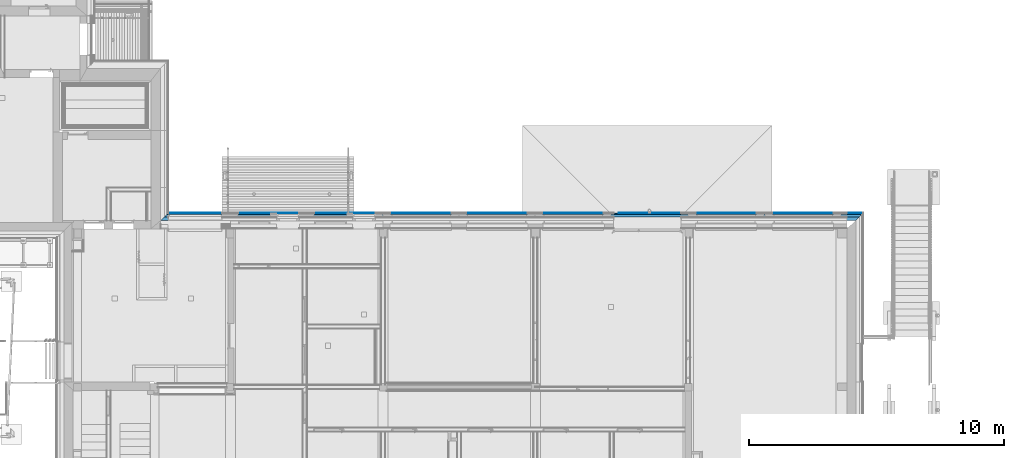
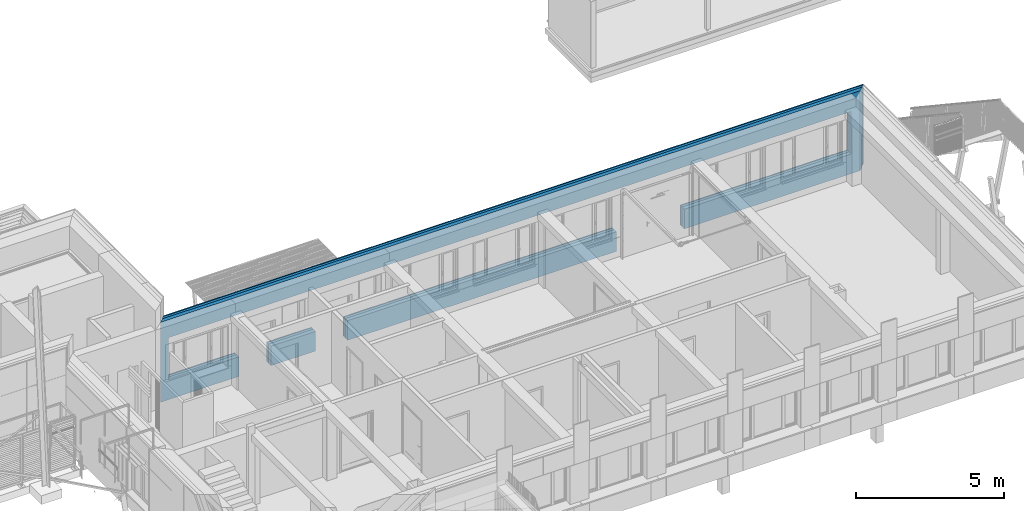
# One storey, part 47 of 418: 4 building element parts, 51 openings, 1 element without a shape of its own.
"""IFC2X3 building model written with IfcOpenShell, lengths in millimetres."""

import ifcopenshell
import ifcopenshell.guid

model = None  # the IFC model being written
_history = None  # IfcOwnerHistory: only IFC2X3 demands one
_inside = {}  # id of a spatial element -> (the spatial element, [elements in it])
_under = {}  # id of a project, library or spatial element -> (it, [spatial elements below it])
_declared = {}  # id of a project -> (the project, [libraries it declares])
_typed = {}  # id of a type object -> (the type object, [elements of that type])
_made_of = {}  # id of a material, layer set ... -> (it, [elements and type objects made of it])


def new_model(schema):
    """Start an empty IFC model of exactly this schema.

    Asked for "IFC4X3", IfcOpenShell would pick the latest addendum, in which some entities
    have other attributes; the version numbers below select the first issue.
    IFC2X3 requires an IfcOwnerHistory on every rooted entity: one is made here for all.
    """
    global model, _history
    if schema == "IFC4X3":
        model = ifcopenshell.file(schema_version=(4, 3, 0, 0))
    else:
        model = ifcopenshell.file(schema=schema)
    _inside.clear()
    _under.clear()
    _declared.clear()
    _typed.clear()
    _made_of.clear()
    _history = None
    if model.schema == "IFC2X3":
        org = make("IfcOrganization", Name="unknown")
        user = make(
            "IfcPersonAndOrganization",
            ThePerson=make("IfcPerson", FamilyName="unknown"),
            TheOrganization=org,
        )
        app = make(
            "IfcApplication",
            ApplicationDeveloper=org,
            Version="unknown",
            ApplicationFullName="unknown",
            ApplicationIdentifier="unknown",
        )
        _history = make(
            "IfcOwnerHistory",
            OwningUser=user,
            OwningApplication=app,
            ChangeAction="ADDED",
            CreationDate=0,
        )
    return model


def make(cls, **values):
    """One entity of the class cls with the attributes given. An attribute that is None is left unset."""
    return model.create_entity(
        cls, **{name: value for name, value in values.items() if value is not None}
    )


def entity(cls, *values):
    """Any entity or typed value of the class cls, its attributes in the order of the schema. None: left unset."""
    e = model.create_entity(cls)
    for i, value in enumerate(values):
        if value is not None:
            e[i] = value
    return e


def rooted(cls, **values):
    """An entity with a GlobalId (a new one), such as an element, a storey or a relation."""
    return make(cls, GlobalId=ifcopenshell.guid.new(), OwnerHistory=_history, **values)


def si_unit(unit_type, name, prefix=None):
    """IfcSIUnit, for example si_unit("LENGTHUNIT", "METRE", prefix="MILLI")."""
    return make("IfcSIUnit", UnitType=unit_type, Prefix=prefix, Name=name)


def converted_unit(unit_type, name, factor, base, dimensions=None, offset=None):
    """IfcConversionBasedUnit, such as the inch: factor (a typed value) times the base unit."""
    return make(
        "IfcConversionBasedUnit"
        if offset is None
        else "IfcConversionBasedUnitWithOffset",
        ConversionOffset=offset,
        Dimensions=None
        if dimensions is None
        else entity("IfcDimensionalExponents", *dimensions),
        UnitType=unit_type,
        Name=name,
        ConversionFactor=make(
            "IfcMeasureWithUnit", ValueComponent=factor, UnitComponent=base
        ),
    )


def derived_unit(unit_type, elements):
    """IfcDerivedUnit: a product of units, each with its exponent."""
    return make(
        "IfcDerivedUnit",
        Elements=[
            make("IfcDerivedUnitElement", Unit=unit, Exponent=power)
            for unit, power in elements
        ],
        UnitType=unit_type,
    )


def money_unit(currency):
    """IfcMonetaryUnit."""
    return make("IfcMonetaryUnit", Currency=currency)


def assignment(units):
    """IfcUnitAssignment: the units of a project."""
    return None if units is None else make("IfcUnitAssignment", Units=units)


def point(xyz):
    """IfcCartesianPoint."""
    return None if xyz is None else make("IfcCartesianPoint", Coordinates=xyz)


def direction(xyz):
    """IfcDirection."""
    return None if xyz is None else make("IfcDirection", DirectionRatios=xyz)


def frame(location, z_axis=None, x_axis=None):
    """IfcAxis2Placement3D, a coordinate frame: its origin and axes. An axis left out is left unset."""
    return make(
        "IfcAxis2Placement3D",
        Location=point(location),
        Axis=direction(z_axis),
        RefDirection=direction(x_axis),
    )


def frame_2d(location, x_axis=None):
    """IfcAxis2Placement2D, a coordinate frame in the plane: its origin and x axis."""
    return make(
        "IfcAxis2Placement2D", Location=point(location), RefDirection=direction(x_axis)
    )


def origin_with_axes():
    """The frame at (0, 0, 0) with the z axis (0, 0, 1) and the x axis (1, 0, 0) written out."""
    return frame((0.0, 0.0, 0.0), z_axis=(0.0, 0.0, 1.0), x_axis=(1.0, 0.0, 0.0))


def origin_2d_with_axis():
    """The frame at (0, 0) in the plane with the x axis (1, 0) written out."""
    return frame_2d((0.0, 0.0), x_axis=(1.0, 0.0))


def place(relative_to, where):
    """IfcLocalPlacement: puts the frame where relative to a parent placement (None: the world)."""
    return make(
        "IfcLocalPlacement", PlacementRelTo=relative_to, RelativePlacement=where
    )


def context(
    kind, dimensions, precision=None, world=None, true_north=None, identifier=None
):
    """IfcGeometricRepresentationContext, for example the 3D "Model" context."""
    return make(
        "IfcGeometricRepresentationContext",
        ContextIdentifier=identifier,
        ContextType=kind,
        CoordinateSpaceDimension=dimensions,
        Precision=precision,
        WorldCoordinateSystem=world,
        TrueNorth=true_north,
    )


def subcontext(parent, identifier, kind, view, scale=None):
    """IfcGeometricRepresentationSubContext, for example "Body" below "Model"."""
    return make(
        "IfcGeometricRepresentationSubContext",
        ContextIdentifier=identifier,
        ContextType=kind,
        ParentContext=parent,
        TargetScale=scale,
        TargetView=view,
    )


def project(units=None, contexts=None):
    """IfcProject with its units and contexts."""
    return rooted(
        "IfcProject",
        Name="project",
        RepresentationContexts=contexts,
        UnitsInContext=assignment(units),
    )


def spatial(cls, under=None, at=None, **own):
    """A site, building, storey or space (cls), placed at a placement, below another one or the project."""
    s = rooted(cls, ObjectPlacement=at, **own)
    if under is not None:
        _under.setdefault(under.id(), (under, []))[1].append(s)
    return s


def polyline(points):
    """IfcPolyline through the points."""
    return make("IfcPolyline", Points=[point(p) for p in points])


def profile(cls, at=None, kind="AREA", **sizes):
    """A parametric profile (cls). Its sizes go by their IFC names, for example OverallWidth=200.0."""
    return make(cls, ProfileType=kind, Position=at, **sizes)


def rectangle(**sizes):
    """IfcRectangleProfileDef."""
    return profile("IfcRectangleProfileDef", **sizes)


def outline(outer, holes=None, kind="AREA"):
    """IfcArbitraryClosedProfileDef: a profile drawn as a closed curve; with holes, ...WithVoids."""
    if holes is None:
        return make("IfcArbitraryClosedProfileDef", ProfileType=kind, OuterCurve=outer)
    return make(
        "IfcArbitraryProfileDefWithVoids",
        ProfileType=kind,
        OuterCurve=outer,
        InnerCurves=holes,
    )


def extrude(swept, where, along, depth):
    """IfcExtrudedAreaSolid: the profile swept, set in the frame where, extruded along a direction by depth."""
    return make(
        "IfcExtrudedAreaSolid",
        SweptArea=swept,
        Position=where,
        ExtrudedDirection=direction(along),
        Depth=depth,
    )


def shape(context_of_items, identifier, shape_type, items):
    """IfcShapeRepresentation: the items that make up one representation, for example the "Body"."""
    return make(
        "IfcShapeRepresentation",
        ContextOfItems=context_of_items,
        RepresentationIdentifier=identifier,
        RepresentationType=shape_type,
        Items=items,
    )


def material(Name=None, Category=None):
    """IfcMaterial."""
    return make("IfcMaterial", Name=Name, Category=Category)


def made_of(thing, what):
    """Note that an element or type object is made of a material, layer set ...; save() writes the relation."""
    if what is not None:
        _made_of.setdefault(what.id(), (what, []))[1].append(thing)
    return thing


def type_object(cls, material=None, **own):
    """A type object (cls), such as IfcWallType, which elements share."""
    return made_of(rooted(cls, **own), material)


def element(
    cls,
    number,
    at=None,
    inside=None,
    cuts=None,
    type_object=None,
    material=None,
    context=None,
    identifier="Body",
    shape_type=None,
    held_by="IfcProductDefinitionShape",
    body=None,
    shapes=None,
    **own,
):
    """One element of the class cls, such as IfcWall. Its Tag is "e" and its number.

    at: its placement. inside: the storey or other place that contains it. cuts: it is an
    opening in that element (IfcRelVoidsElement). A single representation is given by context,
    identifier, shape_type and body (its items); several are given by shapes. held_by: the class
    of the entity that holds the representations. save() writes the other relations.
    """
    e = rooted(cls, Tag="e%d" % number, ObjectPlacement=at, **own)
    if body is not None:
        shapes = [shape(context, identifier, shape_type, body)]
    if shapes is not None:
        e.Representation = make(held_by, Representations=shapes)
    if inside is not None:
        _inside.setdefault(inside.id(), (inside, []))[1].append(e)
    if cuts is not None:
        rooted(
            "IfcRelVoidsElement", RelatingBuildingElement=cuts, RelatedOpeningElement=e
        )
    if type_object is not None:
        _typed.setdefault(type_object.id(), (type_object, []))[1].append(e)
    return made_of(e, material)


def aggregate(whole, parts):
    """IfcRelAggregates: a whole, such as a stair, and the parts it consists of."""
    return rooted("IfcRelAggregates", RelatingObject=whole, RelatedObjects=parts)


def save(model, path):
    """Write the relations noted so far, then the file.

    IfcRelAggregates (storeys below a building ...), IfcRelContainedInSpatialStructure (elements
    in a storey), IfcRelDefinesByType, IfcRelAssociatesMaterial and IfcRelDeclares: one each for
    every whole, place, type object, material and project.
    """
    for whole, parts in _under.values():
        aggregate(whole, parts)
    for where, things in _inside.values():
        rooted(
            "IfcRelContainedInSpatialStructure",
            RelatedElements=things,
            RelatingStructure=where,
        )
    for kind, things in _typed.values():
        rooted("IfcRelDefinesByType", RelatedObjects=things, RelatingType=kind)
    for what, things in _made_of.values():
        rooted("IfcRelAssociatesMaterial", RelatedObjects=things, RelatingMaterial=what)
    for by, libraries in _declared.values():
        rooted("IfcRelDeclares", RelatingContext=by, RelatedDefinitions=libraries)
    model.write(path)


model = new_model("IFC2X3")

# Units and contexts
model_context = context("Model", 3, precision=0.01, world=origin_with_axes(), true_north=direction((0.0, 1.0)))
body_context = subcontext(model_context, "Body", "Model", "MODEL_VIEW")
ifc_project = project(units=[si_unit("LENGTHUNIT", "METRE", prefix="MILLI"), si_unit("AREAUNIT", "SQUARE_METRE"), si_unit("VOLUMEUNIT", "CUBIC_METRE"), converted_unit("PLANEANGLEUNIT", "DEGREE", entity("IfcPlaneAngleMeasure", 0.0174532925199), si_unit("PLANEANGLEUNIT", "RADIAN"), dimensions=[0, 0, 0, 0, 0, 0, 0]), si_unit("SOLIDANGLEUNIT", "STERADIAN"), money_unit("EUR"), converted_unit("TIMEUNIT", "Year", entity("IfcTimeMeasure", 31556926.0), si_unit("TIMEUNIT", "SECOND"), dimensions=[0, 0, 1, 0, 0, 0, 0]), si_unit("MASSUNIT", "GRAM", prefix="KILO"), si_unit("THERMODYNAMICTEMPERATUREUNIT", "DEGREE_CELSIUS"), si_unit("LUMINOUSINTENSITYUNIT", "LUMEN"), si_unit("ENERGYUNIT", "JOULE", prefix="MEGA"), derived_unit("THERMALCONDUCTANCEUNIT", [(si_unit("POWERUNIT", "WATT"), 1), (si_unit("LENGTHUNIT", "METRE"), -1), (si_unit("THERMODYNAMICTEMPERATUREUNIT", "KELVIN"), -1)]), derived_unit("SPECIFICHEATCAPACITYUNIT", [(si_unit("ENERGYUNIT", "JOULE"), 1), (si_unit("MASSUNIT", "GRAM", prefix="KILO"), -1), (si_unit("THERMODYNAMICTEMPERATUREUNIT", "KELVIN"), -1)]), derived_unit("MASSDENSITYUNIT", [(si_unit("MASSUNIT", "GRAM", prefix="KILO"), 1), (si_unit("VOLUMEUNIT", "CUBIC_METRE"), -1)])], contexts=[model_context])

# Site, building, storey
site_placement = place(None, origin_with_axes())
site = spatial("IfcSite", under=ifc_project, at=site_placement, Name="Paldiski mnt 245/1, Tallinn, Harjumaa", CompositionType="COMPLEX")
building_placement = place(site_placement, origin_with_axes())
building = spatial("IfcBuilding", under=site, at=building_placement, Name="RKAS Hoone üldnimetus (kasutust iseloomustav) -> IFC Project Manager -> SOLIBRI", CompositionType="ELEMENT")
storey_placement = place(building_placement, origin_with_axes())
storey = spatial("IfcBuildingStorey", under=building, at=storey_placement, Name="Esimene korrus", CompositionType="ELEMENT", Elevation=0.0)

# Wall, openings, building element parts
wall_type = type_object("IfcWallType", Name="VS-02_uued_kihid 300", PredefinedType="NOTDEFINED")
wall_placement = place(storey_placement, frame((-16879.9999755, 210.0, 0.0), z_axis=(0.0, 0.0, 1.0), x_axis=(-1.0, 0.0, 0.0)))
wall = element("IfcWall", 1, at=wall_placement, inside=storey, type_object=wall_type, Name="VS-02")
opening_1_placement = place(wall_placement, frame((346.000024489, 0.0, 0.0), z_axis=(0.0, 0.0, 1.0), x_axis=(1.0, 0.0, 0.0)))
element("IfcOpeningElement", 2, at=opening_1_placement, cuts=wall, Name="Cembrit fassaadiplaadi vuuk", context=body_context, shape_type="SweptSolid", body=[
    extrude(outline(polyline([(-3.99999999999, 0.0), (4.00000000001, 0.0), (4.00000000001, 3300.0), (-3.99999999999, 3300.0), (-3.99999999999, 0.0)])), frame((0.0, -292.0, 0.0), z_axis=(0.0, 1.0, 0.0), x_axis=(-1.0, 0.0, 0.0)), (0.0, 0.0, -1.0), 308.0),
])
opening_2_placement = place(wall_placement, frame((608.000024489, 0.0, 0.0), z_axis=(0.0, 0.0, 1.0), x_axis=(1.0, 0.0, 0.0)))
element("IfcOpeningElement", 3, at=opening_2_placement, cuts=wall, Name="Cembrit fassaadiplaadi vuuk", context=body_context, shape_type="SweptSolid", body=[
    extrude(outline(polyline([(-258.0, 0.0), (258.0, 0.0), (258.0, 3300.0), (-258.0, 3300.0), (-258.0, 0.0)])), frame((0.0, -292.0, 0.0), z_axis=(0.0, 1.0, 0.0), x_axis=(-1.0, 0.0, 0.0)), (0.0, 0.0, -1.0), 308.0),
])
opening_3_placement = place(wall_placement, frame((870.000024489, 0.0, 0.0), z_axis=(0.0, 0.0, 1.0), x_axis=(1.0, 0.0, 0.0)))
element("IfcOpeningElement", 4, at=opening_3_placement, cuts=wall, Name="Cembrit fassaadiplaadi vuuk", context=body_context, shape_type="SweptSolid", body=[
    extrude(outline(polyline([(-3.99999999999, 0.0), (4.00000000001, 0.0), (4.00000000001, 3300.70711564), (-3.99999999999, 3300.70711564), (-3.99999999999, 0.0)])), frame((0.0, -292.0, 0.0), z_axis=(0.0, 1.0, 0.0), x_axis=(-1.0, 0.0, 0.0)), (0.0, 0.0, -1.0), 308.0),
])
opening_4_placement = place(wall_placement, frame((2070.00002449, 0.0, 0.0), z_axis=(0.0, 0.0, 1.0), x_axis=(1.0, 0.0, 0.0)))
element("IfcOpeningElement", 5, at=opening_4_placement, cuts=wall, Name="Cembrit fassaadiplaadi vuuk", context=body_context, shape_type="SweptSolid", body=[
    extrude(outline(polyline([(-3.99999999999, 0.0), (4.00000000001, 0.0), (4.00000000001, 3300.70711564), (-3.99999999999, 3300.70711564), (-3.99999999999, 0.0)])), frame((0.0, -292.0, 0.0), z_axis=(0.0, 1.0, 0.0), x_axis=(-1.0, 0.0, 0.0)), (0.0, 0.0, -1.0), 308.0),
])
opening_5_placement = place(wall_placement, frame((3270.00002449, 0.0, 0.0), z_axis=(0.0, 0.0, 1.0), x_axis=(1.0, 0.0, 0.0)))
element("IfcOpeningElement", 6, at=opening_5_placement, cuts=wall, Name="Cembrit fassaadiplaadi vuuk", context=body_context, shape_type="SweptSolid", body=[
    extrude(outline(polyline([(-3.99999999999, 0.0), (4.00000000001, 0.0), (4.00000000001, 3300.70711564), (-3.99999999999, 3300.70711564), (-3.99999999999, 0.0)])), frame((0.0, -292.0, 0.0), z_axis=(0.0, 1.0, 0.0), x_axis=(-1.0, 0.0, 0.0)), (0.0, 0.0, -1.0), 308.0),
])
opening_6_placement = place(wall_placement, frame((3890.00002449, 0.0, 0.0), z_axis=(0.0, 0.0, 1.0), x_axis=(1.0, 0.0, 0.0)))
element("IfcOpeningElement", 7, at=opening_6_placement, cuts=wall, Name="Cembrit fassaadiplaadi vuuk", context=body_context, shape_type="SweptSolid", body=[
    extrude(outline(polyline([(-3.99999999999, 0.0), (4.00000000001, 0.0), (4.00000000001, 3300.70711564), (-3.99999999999, 3300.70711564), (-3.99999999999, 0.0)])), frame((0.0, -292.0, 0.0), z_axis=(0.0, 1.0, 0.0), x_axis=(-1.0, 0.0, 0.0)), (0.0, 0.0, -1.0), 308.0),
])
opening_7_placement = place(wall_placement, frame((5090.00002449, -1.18877130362e-10, 0.0), z_axis=(0.0, 0.0, 1.0), x_axis=(1.0, 0.0, 0.0)))
element("IfcOpeningElement", 8, at=opening_7_placement, cuts=wall, Name="Cembrit fassaadiplaadi vuuk", context=body_context, shape_type="SweptSolid", body=[
    extrude(outline(polyline([(-3.99999999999, 0.0), (4.00000000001, 0.0), (4.00000000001, 3300.70711564), (-3.99999999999, 3300.70711564), (-3.99999999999, 0.0)])), frame((0.0, -292.0, 0.0), z_axis=(0.0, 1.0, 0.0), x_axis=(-1.0, 0.0, 0.0)), (0.0, 0.0, -1.0), 308.0),
])
opening_8_placement = place(wall_placement, frame((6290.00002449, -1.46910261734e-10, 0.0), z_axis=(0.0, 0.0, 1.0), x_axis=(1.0, 0.0, 0.0)))
element("IfcOpeningElement", 9, at=opening_8_placement, cuts=wall, Name="Cembrit fassaadiplaadi vuuk", context=body_context, shape_type="SweptSolid", body=[
    extrude(outline(polyline([(-3.99999999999, 0.0), (4.00000000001, 0.0), (4.00000000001, 3300.70711564), (-3.99999999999, 3300.70711564), (-3.99999999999, 0.0)])), frame((0.0, -292.0, 0.0), z_axis=(0.0, 1.0, 0.0), x_axis=(-1.0, 0.0, 0.0)), (0.0, 0.0, -1.0), 308.0),
])
opening_9_placement = place(wall_placement, frame((6910.00002449, -1.61370916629e-10, 0.0), z_axis=(0.0, 0.0, 1.0), x_axis=(1.0, 0.0, 0.0)))
element("IfcOpeningElement", 10, at=opening_9_placement, cuts=wall, Name="Cembrit fassaadiplaadi vuuk", context=body_context, shape_type="SweptSolid", body=[
    extrude(outline(polyline([(-3.99999999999, 0.0), (4.00000000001, 0.0), (4.00000000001, 3300.70711564), (-3.99999999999, 3300.70711564), (-3.99999999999, 0.0)])), frame((0.0, -292.0, 0.0), z_axis=(0.0, 1.0, 0.0), x_axis=(-1.0, 0.0, 0.0)), (0.0, 0.0, -1.0), 308.0),
])
opening_10_placement = place(wall_placement, frame((8110.00002449, -1.89404048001e-10, 0.0), z_axis=(0.0, 0.0, 1.0), x_axis=(1.0, 0.0, 0.0)))
element("IfcOpeningElement", 11, at=opening_10_placement, cuts=wall, Name="Cembrit fassaadiplaadi vuuk", context=body_context, shape_type="SweptSolid", body=[
    extrude(outline(polyline([(-3.99999999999, 0.0), (4.00000000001, 0.0), (4.00000000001, 3300.70711564), (-3.99999999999, 3300.70711564), (-3.99999999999, 0.0)])), frame((0.0, -292.0, 0.0), z_axis=(0.0, 1.0, 0.0), x_axis=(-1.0, 0.0, 0.0)), (0.0, 0.0, -1.0), 308.0),
])
opening_11_placement = place(wall_placement, frame((9310.00002449, -2.17437179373e-10, 0.0), z_axis=(0.0, 0.0, 1.0), x_axis=(1.0, 0.0, 0.0)))
element("IfcOpeningElement", 12, at=opening_11_placement, cuts=wall, Name="Cembrit fassaadiplaadi vuuk", context=body_context, shape_type="SweptSolid", body=[
    extrude(outline(polyline([(-3.99999999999, 0.0), (4.00000000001, 0.0), (4.00000000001, 3300.70711564), (-3.99999999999, 3300.70711564), (-3.99999999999, 0.0)])), frame((0.0, -292.0, 0.0), z_axis=(0.0, 1.0, 0.0), x_axis=(-1.0, 0.0, 0.0)), (0.0, 0.0, -1.0), 308.0),
])
opening_12_placement = place(wall_placement, frame((9900.00002449, -2.31231700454e-10, 0.0), z_axis=(0.0, 0.0, 1.0), x_axis=(1.0, 0.0, 0.0)))
element("IfcOpeningElement", 13, at=opening_12_placement, cuts=wall, Name="Cembrit fassaadiplaadi vuuk", context=body_context, shape_type="SweptSolid", body=[
    extrude(outline(polyline([(-3.99999999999, 0.0), (4.00000000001, 0.0), (4.00000000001, 3300.70711564), (-3.99999999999, 3300.70711564), (-3.99999999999, 0.0)])), frame((0.0, -292.0, 0.0), z_axis=(0.0, 1.0, 0.0), x_axis=(-1.0, 0.0, 0.0)), (0.0, 0.0, -1.0), 308.0),
])
opening_13_placement = place(wall_placement, frame((11100.0000245, -2.59264831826e-10, 0.0), z_axis=(0.0, 0.0, 1.0), x_axis=(1.0, 0.0, 0.0)))
element("IfcOpeningElement", 14, at=opening_13_placement, cuts=wall, Name="Cembrit fassaadiplaadi vuuk", context=body_context, shape_type="SweptSolid", body=[
    extrude(outline(polyline([(-3.99999999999, 0.0), (4.00000000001, 0.0), (4.00000000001, 3300.70711564), (-3.99999999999, 3300.70711564), (-3.99999999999, 0.0)])), frame((0.0, -292.0, 0.0), z_axis=(0.0, 1.0, 0.0), x_axis=(-1.0, 0.0, 0.0)), (0.0, 0.0, -1.0), 308.0),
])
opening_14_placement = place(wall_placement, frame((12300.0000245, -2.87297963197e-10, 0.0), z_axis=(0.0, 0.0, 1.0), x_axis=(1.0, 0.0, 0.0)))
element("IfcOpeningElement", 15, at=opening_14_placement, cuts=wall, Name="Cembrit fassaadiplaadi vuuk", context=body_context, shape_type="SweptSolid", body=[
    extrude(outline(polyline([(-3.99999999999, 0.0), (4.00000000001, 0.0), (4.00000000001, 3300.70711564), (-3.99999999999, 3300.70711564), (-3.99999999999, 0.0)])), frame((0.0, -292.0, 0.0), z_axis=(0.0, 1.0, 0.0), x_axis=(-1.0, 0.0, 0.0)), (0.0, 0.0, -1.0), 308.0),
])
opening_15_placement = place(wall_placement, frame((12890.0000245, -3.01064728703e-10, 0.0), z_axis=(0.0, 0.0, 1.0), x_axis=(1.0, 0.0, 0.0)))
element("IfcOpeningElement", 16, at=opening_15_placement, cuts=wall, Name="Cembrit fassaadiplaadi vuuk", context=body_context, shape_type="SweptSolid", body=[
    extrude(outline(polyline([(-3.99999999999, 0.0), (4.00000000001, 0.0), (4.00000000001, 3300.70711564), (-3.99999999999, 3300.70711564), (-3.99999999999, 0.0)])), frame((0.0, -292.0, 0.0), z_axis=(0.0, 1.0, 0.0), x_axis=(-1.0, 0.0, 0.0)), (0.0, 0.0, -1.0), 308.0),
])
opening_16_placement = place(wall_placement, frame((14090.0000245, -3.29097860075e-10, 0.0), z_axis=(0.0, 0.0, 1.0), x_axis=(1.0, 0.0, 0.0)))
element("IfcOpeningElement", 17, at=opening_16_placement, cuts=wall, Name="Cembrit fassaadiplaadi vuuk", context=body_context, shape_type="SweptSolid", body=[
    extrude(outline(polyline([(-3.99999999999, 0.0), (4.00000000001, 0.0), (4.00000000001, 3300.70711564), (-3.99999999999, 3300.70711564), (-3.99999999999, 0.0)])), frame((0.0, -292.0, 0.0), z_axis=(0.0, 1.0, 0.0), x_axis=(-1.0, 0.0, 0.0)), (0.0, 0.0, -1.0), 308.0),
])
opening_17_placement = place(wall_placement, frame((15290.0000245, -3.57130991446e-10, 0.0), z_axis=(0.0, 0.0, 1.0), x_axis=(1.0, 0.0, 0.0)))
element("IfcOpeningElement", 18, at=opening_17_placement, cuts=wall, Name="Cembrit fassaadiplaadi vuuk", context=body_context, shape_type="SweptSolid", body=[
    extrude(outline(polyline([(-3.99999999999, 0.0), (4.0, 0.0), (4.0, 3300.70711564), (-3.99999999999, 3300.70711564), (-3.99999999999, 0.0)])), frame((0.0, -292.0, 0.0), z_axis=(0.0, 1.0, 0.0), x_axis=(-1.0, 0.0, 0.0)), (0.0, 0.0, -1.0), 308.0),
])
opening_18_placement = place(wall_placement, frame((15870.0000245, -3.70675712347e-10, 0.0), z_axis=(0.0, 0.0, 1.0), x_axis=(1.0, 0.0, 0.0)))
element("IfcOpeningElement", 19, at=opening_18_placement, cuts=wall, Name="Cembrit fassaadiplaadi vuuk", context=body_context, shape_type="SweptSolid", body=[
    extrude(outline(polyline([(-3.99999999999, 0.0), (4.0, 0.0), (4.0, 3300.70711564), (-3.99999999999, 3300.70711564), (-3.99999999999, 0.0)])), frame((0.0, -292.0, 0.0), z_axis=(0.0, 1.0, 0.0), x_axis=(-1.0, 0.0, 0.0)), (0.0, 0.0, -1.0), 308.0),
])
opening_19_placement = place(wall_placement, frame((17070.0000245, -3.98708843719e-10, 0.0), z_axis=(0.0, 0.0, 1.0), x_axis=(1.0, 0.0, 0.0)))
element("IfcOpeningElement", 20, at=opening_19_placement, cuts=wall, Name="Cembrit fassaadiplaadi vuuk", context=body_context, shape_type="SweptSolid", body=[
    extrude(outline(polyline([(-3.99999999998, 0.0), (4.00000000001, 0.0), (4.00000000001, 3300.70711564), (-3.99999999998, 3300.70711564), (-3.99999999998, 0.0)])), frame((0.0, -292.0, 0.0), z_axis=(0.0, 1.0, 0.0), x_axis=(-1.0, 0.0, 0.0)), (0.0, 0.0, -1.0), 308.0),
])
opening_20_placement = place(wall_placement, frame((18270.0000245, -4.2674197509e-10, 0.0), z_axis=(0.0, 0.0, 1.0), x_axis=(1.0, 0.0, 0.0)))
element("IfcOpeningElement", 21, at=opening_20_placement, cuts=wall, Name="Cembrit fassaadiplaadi vuuk", context=body_context, shape_type="SweptSolid", body=[
    extrude(outline(polyline([(-3.99999999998, 0.0), (4.00000000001, 0.0), (4.00000000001, 3300.70711564), (-3.99999999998, 3300.70711564), (-3.99999999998, 0.0)])), frame((0.0, -292.0, 0.0), z_axis=(0.0, 1.0, 0.0), x_axis=(-1.0, 0.0, 0.0)), (0.0, 0.0, -1.0), 308.0),
])
opening_21_placement = place(wall_placement, frame((18860.0000245, -4.40508740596e-10, 0.0), z_axis=(0.0, 0.0, 1.0), x_axis=(1.0, 0.0, 0.0)))
element("IfcOpeningElement", 22, at=opening_21_placement, cuts=wall, Name="Cembrit fassaadiplaadi vuuk", context=body_context, shape_type="SweptSolid", body=[
    extrude(outline(polyline([(-4.0, 0.0), (4.0, 0.0), (4.0, 3300.70711564), (-4.0, 3300.70711564), (-4.0, 0.0)])), frame((0.0, -292.0, 0.0), z_axis=(0.0, 1.0, 0.0), x_axis=(-1.0, 0.0, 0.0)), (0.0, 0.0, -1.0), 308.0),
])
opening_22_placement = place(wall_placement, frame((20060.0000245, -4.68541871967e-10, 2560.00000019), z_axis=(0.0, 0.0, 1.0), x_axis=(1.0, 0.0, 0.0)))
element("IfcOpeningElement", 23, at=opening_22_placement, cuts=wall, Name="Cembrit fassaadiplaadi vuuk", context=body_context, shape_type="SweptSolid", body=[
    extrude(outline(polyline([(-3.99999999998, 0.0), (4.00000000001, 0.0), (4.00000000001, 740.707115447), (-3.99999999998, 740.707115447), (-3.99999999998, 0.0)])), frame((0.0, -292.0, 0.0), z_axis=(0.0, 1.0, 0.0), x_axis=(-1.0, 0.0, 0.0)), (0.0, 0.0, -1.0), 308.0),
])
opening_23_placement = place(wall_placement, frame((21260.0000245, -4.96575003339e-10, 0.707115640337), z_axis=(0.0, 0.0, 1.0), x_axis=(1.0, 0.0, 0.0)))
element("IfcOpeningElement", 24, at=opening_23_placement, cuts=wall, Name="Cembrit fassaadiplaadi vuuk", context=body_context, shape_type="SweptSolid", body=[
    extrude(outline(polyline([(-3.99999999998, 0.0), (4.00000000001, 0.0), (4.00000000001, 3300.0), (-3.99999999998, 3300.0), (-3.99999999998, 0.0)])), frame((0.0, -292.0, 0.0), z_axis=(0.0, 1.0, 0.0), x_axis=(-1.0, 0.0, 0.0)), (0.0, 0.0, -1.0), 308.0),
])
opening_24_placement = place(wall_placement, frame((21850.0000245, -5.1036952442e-10, 2560.00000019), z_axis=(0.0, 0.0, 1.0), x_axis=(1.0, 0.0, 0.0)))
element("IfcOpeningElement", 25, at=opening_24_placement, cuts=wall, Name="Cembrit fassaadiplaadi vuuk", context=body_context, shape_type="SweptSolid", body=[
    extrude(outline(polyline([(-3.99999999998, 0.0), (4.00000000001, 0.0), (4.00000000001, 740.707115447), (-3.99999999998, 740.707115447), (-3.99999999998, 0.0)])), frame((0.0, -291.999999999, 0.0), z_axis=(0.0, 1.0, 0.0), x_axis=(-1.0, 0.0, 0.0)), (0.0, 0.0, -1.0), 308.0),
])
opening_25_placement = place(wall_placement, frame((23050.0000245, -5.38402655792e-10, 2560.00000019), z_axis=(0.0, 0.0, 1.0), x_axis=(1.0, 0.0, 0.0)))
element("IfcOpeningElement", 26, at=opening_25_placement, cuts=wall, Name="Cembrit fassaadiplaadi vuuk", context=body_context, shape_type="SweptSolid", body=[
    extrude(outline(polyline([(-4.0, 0.0), (4.0, 0.0), (4.0, 740.707115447), (-4.0, 740.707115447), (-4.0, 0.0)])), frame((0.0, -291.999999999, 0.0), z_axis=(0.0, 1.0, 0.0), x_axis=(-1.0, 0.0, 0.0)), (0.0, 0.0, -1.0), 308.0),
])
opening_26_placement = place(wall_placement, frame((24250.0000245, -5.66435787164e-10, 0.0), z_axis=(0.0, 0.0, 1.0), x_axis=(1.0, 0.0, 0.0)))
element("IfcOpeningElement", 27, at=opening_26_placement, cuts=wall, Name="Cembrit fassaadiplaadi vuuk", context=body_context, shape_type="SweptSolid", body=[
    extrude(outline(polyline([(-4.0, 0.0), (4.0, 0.0), (4.0, 3300.70711564), (-4.0, 3300.70711564), (-4.0, 0.0)])), frame((0.0, -291.999999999, 0.0), z_axis=(0.0, 1.0, 0.0), x_axis=(-1.0, 0.0, 0.0)), (0.0, 0.0, -1.0), 308.0),
])
opening_27_placement = place(wall_placement, frame((26040.0000245, -6.08235684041e-10, 0.0), z_axis=(0.0, 0.0, 1.0), x_axis=(1.0, 0.0, 0.0)))
element("IfcOpeningElement", 28, at=opening_27_placement, cuts=wall, Name="Cembrit fassaadiplaadi vuuk", context=body_context, shape_type="SweptSolid", body=[
    extrude(outline(polyline([(-3.99999999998, 0.0), (4.00000000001, 0.0), (4.00000000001, 3300.70711564), (-3.99999999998, 3300.70711564), (-3.99999999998, 0.0)])), frame((0.0, -291.999999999, 0.0), z_axis=(0.0, 1.0, 0.0), x_axis=(-1.0, 0.0, 0.0)), (0.0, 0.0, -1.0), 308.0),
])
opening_28_placement = place(wall_placement, frame((27240.0000245, -6.36268815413e-10, 0.707115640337), z_axis=(0.0, 0.0, 1.0), x_axis=(1.0, 0.0, 0.0)))
element("IfcOpeningElement", 29, at=opening_28_placement, cuts=wall, Name="Cembrit fassaadiplaadi vuuk", context=body_context, shape_type="SweptSolid", body=[
    extrude(outline(polyline([(-3.99999999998, 0.0), (4.00000000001, 0.0), (4.00000000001, 3300.0), (-3.99999999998, 3300.0), (-3.99999999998, 0.0)])), frame((0.0, -291.999999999, 0.0), z_axis=(0.0, 1.0, 0.0), x_axis=(-1.0, 0.0, 0.0)), (0.0, 0.0, -1.0), 308.0),
])
opening_29_placement = place(wall_placement, frame((22742.0000245, -5.31213961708e-10, 0.0), z_axis=(0.0, 0.0, 1.0), x_axis=(1.0, 0.0, 0.0)))
element("IfcOpeningElement", 30, at=opening_29_placement, cuts=wall, Name="Cembrit fassaadiplaadi vuuk", context=body_context, shape_type="SweptSolid", body=[
    extrude(outline(polyline([(-3.99999999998, 0.0), (4.00000000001, 0.0), (4.00000000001, 2560.0), (-3.99999999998, 2560.0), (-3.99999999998, 0.0)])), frame((0.0, -291.999999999, 0.0), z_axis=(0.0, 1.0, 0.0), x_axis=(-1.0, 0.0, 0.0)), (0.0, 0.0, -1.0), 308.0),
])
opening_30_placement = place(wall_placement, frame((19750.2355118, -4.61325422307e-10, 0.0), z_axis=(0.0, 0.0, 1.0), x_axis=(1.0, 0.0, 0.0)))
element("IfcOpeningElement", 31, at=opening_30_placement, cuts=wall, Name="Cembrit fassaadiplaadi vuuk", context=body_context, shape_type="SweptSolid", body=[
    extrude(outline(polyline([(-4.0, 0.0), (4.0, 0.0), (4.0, 2560.0), (-4.0, 2560.0), (-4.0, 0.0)])), frame((0.0, -292.0, 0.0), z_axis=(0.0, 1.0, 0.0), x_axis=(-1.0, 0.0, 0.0)), (0.0, 0.0, -1.0), 308.0),
])
opening_31_placement = place(wall_placement, frame((3578.00002449, 0.0, 0.0), z_axis=(0.0, 0.0, 1.0), x_axis=(1.0, 0.0, 0.0)))
element("IfcOpeningElement", 32, at=opening_31_placement, cuts=wall, Name="Cembrit fassaadiplaadi vuuk", context=body_context, shape_type="SweptSolid", body=[
    extrude(outline(polyline([(-308.0, 0.0), (308.0, 0.0), (308.0, 3300.0), (-308.0, 3300.0), (-308.0, 0.0)])), frame((0.0, -292.0, 0.0), z_axis=(0.0, 1.0, 0.0), x_axis=(-1.0, 0.0, 0.0)), (0.0, 0.0, -1.0), 308.0),
])
opening_32_placement = place(wall_placement, frame((6596.00002449, -1.54043444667e-10, 0.0), z_axis=(0.0, 0.0, 1.0), x_axis=(1.0, 0.0, 0.0)))
element("IfcOpeningElement", 33, at=opening_32_placement, cuts=wall, Name="Cembrit fassaadiplaadi vuuk", context=body_context, shape_type="SweptSolid", body=[
    extrude(outline(polyline([(-310.0, 0.0), (310.0, 0.0), (310.0, 3300.0), (-310.0, 3300.0), (-310.0, 0.0)])), frame((0.0, -292.0, 0.0), z_axis=(0.0, 1.0, 0.0), x_axis=(-1.0, 0.0, 0.0)), (0.0, 0.0, -1.0), 308.0),
])
opening_33_placement = place(wall_placement, frame((9703.00002449, -2.26624274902e-10, 0.0), z_axis=(0.0, 0.0, 1.0), x_axis=(1.0, 0.0, 0.0)))
element("IfcOpeningElement", 34, at=opening_33_placement, cuts=wall, Name="Cembrit fassaadiplaadi vuuk", context=body_context, shape_type="SweptSolid", body=[
    extrude(outline(polyline([(-193.000000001, 0.0), (193.000000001, 0.0), (193.000000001, 840.0), (-193.000000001, 840.0), (-193.000000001, 0.0)])), frame((0.0, -292.0, 0.0), z_axis=(0.0, 1.0, 0.0), x_axis=(-1.0, 0.0, 0.0)), (0.0, 0.0, -1.0), 308.0),
])
opening_34_placement = place(wall_placement, frame((12595.0000245, -2.9418134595e-10, 0.0), z_axis=(0.0, 0.0, 1.0), x_axis=(1.0, 0.0, 0.0)))
element("IfcOpeningElement", 35, at=opening_34_placement, cuts=wall, Name="Cembrit fassaadiplaadi vuuk", context=body_context, shape_type="SweptSolid", body=[
    extrude(outline(polyline([(-291.0, 0.0), (291.0, 0.0), (291.0, 3300.0), (-291.0, 3300.0), (-291.0, 0.0)])), frame((0.0, -292.0, 0.0), z_axis=(0.0, 1.0, 0.0), x_axis=(-1.0, 0.0, 0.0)), (0.0, 0.0, -1.0), 308.0),
])
opening_35_placement = place(wall_placement, frame((15580.0000245, -3.63903351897e-10, 0.0), z_axis=(0.0, 0.0, 1.0), x_axis=(1.0, 0.0, 0.0)))
element("IfcOpeningElement", 36, at=opening_35_placement, cuts=wall, Name="Cembrit fassaadiplaadi vuuk", context=body_context, shape_type="SweptSolid", body=[
    extrude(outline(polyline([(-286.0, 0.0), (286.0, 0.0), (286.0, 3300.0), (-286.0, 3300.0), (-286.0, 0.0)])), frame((0.0, -292.0, 0.0), z_axis=(0.0, 1.0, 0.0), x_axis=(-1.0, 0.0, 0.0)), (0.0, 0.0, -1.0), 308.0),
])
opening_36_placement = place(wall_placement, frame((18565.0000245, -4.33625357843e-10, 0.0), z_axis=(0.0, 0.0, 1.0), x_axis=(1.0, 0.0, 0.0)))
element("IfcOpeningElement", 37, at=opening_36_placement, cuts=wall, Name="Cembrit fassaadiplaadi vuuk", context=body_context, shape_type="SweptSolid", body=[
    extrude(outline(polyline([(-295.0, 0.0), (295.0, 0.0), (295.0, 3300.0), (-295.0, 3300.0), (-295.0, 0.0)])), frame((0.0, -292.0, 0.0), z_axis=(0.0, 1.0, 0.0), x_axis=(-1.0, 0.0, 0.0)), (0.0, 0.0, -1.0), 308.0),
])
opening_37_placement = place(wall_placement, frame((19897.6661113, -4.64767113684e-10, 0.0), z_axis=(0.0, 0.0, 1.0), x_axis=(1.0, 0.0, 0.0)))
element("IfcOpeningElement", 38, at=opening_37_placement, cuts=wall, Name="Cembrit fassaadiplaadi vuuk", context=body_context, shape_type="SweptSolid", body=[
    extrude(outline(polyline([(-143.430599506, 0.0), (143.430599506, 0.0), (143.430599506, 815.000000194), (-143.430599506, 815.000000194), (-143.430599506, 0.0)])), frame((0.0, -292.0, 0.0), z_axis=(0.0, 1.0, 0.0), x_axis=(-1.0, 0.0, 0.0)), (0.0, 0.0, -1.0), 308.0),
])
opening_38_placement = place(wall_placement, frame((21555.0000245, -5.03486141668e-10, 0.0), z_axis=(0.0, 0.0, 1.0), x_axis=(1.0, 0.0, 0.0)))
element("IfcOpeningElement", 39, at=opening_38_placement, cuts=wall, Name="Cembrit fassaadiplaadi vuuk", context=body_context, shape_type="SweptSolid", body=[
    extrude(outline(polyline([(-291.0, 0.0), (291.0, 0.0), (291.0, 810.0), (-291.0, 810.0), (-291.0, 0.0)])), frame((0.0, -291.999999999, 0.0), z_axis=(0.0, 1.0, 0.0), x_axis=(-1.0, 0.0, 0.0)), (0.0, 0.0, -1.0), 308.0),
])
opening_39_placement = place(wall_placement, frame((22865.5000245, -5.34072785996e-10, 0.0), z_axis=(0.0, 0.0, 1.0), x_axis=(1.0, 0.0, 0.0)))
element("IfcOpeningElement", 40, at=opening_39_placement, cuts=wall, Name="Cembrit fassaadiplaadi vuuk", context=body_context, shape_type="SweptSolid", body=[
    extrude(outline(polyline([(-119.5, 0.0), (119.5, 0.0), (119.5, 810.0), (-119.5, 810.0), (-119.5, 0.0)])), frame((0.0, -291.999999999, 0.0), z_axis=(0.0, 1.0, 0.0), x_axis=(-1.0, 0.0, 0.0)), (0.0, 0.0, -1.0), 308.0),
])
opening_40_placement = place(wall_placement, frame((24545.0000245, -5.73319169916e-10, 0.0), z_axis=(0.0, 0.0, 1.0), x_axis=(1.0, 0.0, 0.0)))
element("IfcOpeningElement", 41, at=opening_40_placement, cuts=wall, Name="Cembrit fassaadiplaadi vuuk", context=body_context, shape_type="SweptSolid", body=[
    extrude(outline(polyline([(-299.0, 0.0), (299.0, 0.0), (299.0, 3300.0), (-299.0, 3300.0), (-299.0, 0.0)])), frame((0.0, -291.999999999, 0.0), z_axis=(0.0, 1.0, 0.0), x_axis=(-1.0, 0.0, 0.0)), (0.0, 0.0, -1.0), 308.0),
])
opening_41_placement = place(wall_placement, frame((21555.0000245, -5.03486141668e-10, 2560.0), z_axis=(0.0, 0.0, 1.0), x_axis=(1.0, 0.0, 0.0)))
element("IfcOpeningElement", 42, at=opening_41_placement, cuts=wall, Name="Cembrit fassaadiplaadi vuuk", context=body_context, shape_type="SweptSolid", body=[
    extrude(outline(polyline([(-291.0, 0.0), (291.0, 0.0), (291.0, 740.0), (-291.0, 740.0), (-291.0, 0.0)])), frame((0.0, -291.999999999, 0.0), z_axis=(0.0, 1.0, 0.0), x_axis=(-1.0, 0.0, 0.0)), (0.0, 0.0, -1.0), 308.0),
])
opening_42_placement = place(wall_placement, frame((21849.8779771, -5.1036952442e-10, 2.33589470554), z_axis=(0.0, 0.0, 1.0), x_axis=(1.0, 0.0, 0.0)))
element("IfcOpeningElement", 43, at=opening_42_placement, cuts=wall, Name="Cembrit fassaadiplaadi vuuk", context=body_context, shape_type="SweptSolid", body=[
    extrude(outline(polyline([(-4.12204738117, 0.0), (4.12204738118, 0.0), (4.12204738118, 812.664105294), (-4.12204738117, 812.664105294), (-4.12204738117, 0.0)])), frame((0.0, -291.999999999, 0.0), z_axis=(0.0, 1.0, 0.0), x_axis=(-1.0, 0.0, 0.0)), (0.0, 0.0, -1.0), 308.0),
])
opening_43_placement = place(wall_placement, frame((9605.00002449, -2.24348317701e-10, 2560.0), z_axis=(0.0, 0.0, 1.0), x_axis=(1.0, 0.0, 0.0)))
element("IfcOpeningElement", 44, at=opening_43_placement, cuts=wall, Name="Cembrit fassaadiplaadi vuuk", context=body_context, shape_type="SweptSolid", body=[
    extrude(outline(polyline([(-291.0, 0.0), (291.0, 0.0), (291.0, 740.0), (-291.0, 740.0), (-291.0, 0.0)])), frame((0.0, -292.0, 0.0), z_axis=(0.0, 1.0, 0.0), x_axis=(-1.0, 0.0, 0.0)), (0.0, 0.0, -1.0), 308.0),
])
opening_44_placement = place(wall_placement, frame((25.0000122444, 0.0, 810.0), z_axis=(0.0, 0.0, 1.0), x_axis=(1.0, 0.0, 0.0)))
element("IfcOpeningElement", 45, at=opening_44_placement, cuts=wall, Name="Cembrit fassaadiplaadi vuuk", context=body_context, shape_type="SweptSolid", body=[
    extrude(outline(polyline([(-325.000012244, 0.0), (325.000012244, 0.0), (325.000012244, 8.0), (-325.000012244, 8.0), (-325.000012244, 0.0)])), frame((0.0, -292.0, 0.0), z_axis=(0.0, 1.0, 0.0), x_axis=(-1.0, 0.0, 0.0)), (0.0, 0.0, -1.0), 308.0),
])
opening_45_placement = place(wall_placement, frame((25.0000122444, 0.0, 2552.0), z_axis=(0.0, 0.0, 1.0), x_axis=(1.0, 0.0, 0.0)))
element("IfcOpeningElement", 46, at=opening_45_placement, cuts=wall, Name="Cembrit fassaadiplaadi vuuk", context=body_context, shape_type="SweptSolid", body=[
    extrude(outline(polyline([(-325.000012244, 0.0), (325.000012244, 0.0), (325.000012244, 8.0), (-325.000012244, 8.0), (-325.000012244, 0.0)])), frame((0.0, -292.0, 0.0), z_axis=(0.0, 1.0, 0.0), x_axis=(-1.0, 0.0, 0.0)), (0.0, 0.0, -1.0), 308.0),
])
opening_46_placement = place(wall_placement, frame((-16879.9999755, 210.0, 0.0), z_axis=(0.0, 0.0, 1.0), x_axis=(-1.0, 0.0, 0.0)))
element("IfcOpeningElement", 47, at=opening_46_placement, cuts=wall, Name="AVA", ObjectType="OPENING", context=body_context, shape_type="SweptSolid", body=[
    extrude(rectangle(XDim=2650.0, YDim=840.0, at=origin_2d_with_axis()), frame((-25065.0, 210.0, 420.0), z_axis=(0.0, 1.0, 0.0), x_axis=(-1.0, 0.0, 0.0)), (0.0, 0.0, 1.0), 600.000000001),
])
opening_47_placement = place(wall_placement, frame((-16879.9999755, 210.0, 0.0), z_axis=(0.0, 0.0, 1.0), x_axis=(-1.0, 0.0, 0.0)))
element("IfcOpeningElement", 48, at=opening_47_placement, cuts=wall, Name="AVA", ObjectType="OPENING", context=body_context, shape_type="SweptSolid", body=[
    extrude(rectangle(XDim=1250.0, YDim=840.0, at=origin_2d_with_axis()), frame((-40501.0000027, 610.000059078, 420.0), z_axis=(0.0, 1.0, 0.0), x_axis=(-1.0, 0.0, 0.0)), (0.0, 0.0, -1.0), 700.000059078),
])
opening_48_placement = place(wall_placement, frame((-16879.9999755, 210.0, 0.0), z_axis=(0.0, 0.0, 1.0), x_axis=(-1.0, 0.0, 0.0)))
element("IfcOpeningElement", 49, at=opening_48_placement, cuts=wall, Name="AVA", ObjectType="OPENING", context=body_context, shape_type="SweptSolid", body=[
    extrude(rectangle(XDim=1250.0, YDim=840.0, at=origin_2d_with_axis()), frame((-37511.0000024, 610.000059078, 420.0), z_axis=(0.0, 1.0, 0.0), x_axis=(-1.0, 0.0, 0.0)), (0.0, 0.0, -1.0), 700.000059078),
])
opening_49_placement = place(wall_placement, frame((-16879.9999755, 210.0, 0.0), z_axis=(0.0, 0.0, 1.0), x_axis=(-1.0, 0.0, 0.0)))
element("IfcOpeningElement", 50, at=opening_49_placement, cuts=wall, Name="AVA", ObjectType="OPENING", context=body_context, shape_type="SweptSolid", body=[
    extrude(rectangle(XDim=26650.5505463, YDim=1750.0, at=origin_2d_with_axis()), frame((-30555.2752731, 810.000000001, 1685.0), z_axis=(0.0, 1.0, 0.0), x_axis=(-1.0, 0.0, 0.0)), (0.0, 0.0, -1.0), 900.000000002),
])
opening_50_placement = place(wall_placement, frame((-16879.9999755, 210.0, 0.0), z_axis=(0.0, 0.0, 1.0), x_axis=(-1.0, 0.0, 0.0)))
element("IfcOpeningElement", 51, at=opening_50_placement, cuts=wall, Name="AVA", ObjectType="OPENING", context=body_context, shape_type="SweptSolid", body=[
    extrude(rectangle(XDim=1250.0, YDim=2100.0, at=origin_2d_with_axis()), frame((-37511.0, 810.000000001, 1050.0), z_axis=(0.0, 1.0, 0.0), x_axis=(-1.0, 0.0, 0.0)), (0.0, 0.0, -1.0), 900.000000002),
])
opening_51_placement = place(wall_placement, frame((-16879.9999755, 210.0, 0.0), z_axis=(0.0, 0.0, 1.0), x_axis=(-1.0, 0.0, 0.0)))
element("IfcOpeningElement", 52, at=opening_51_placement, cuts=wall, Name="AVA", ObjectType="OPENING", context=body_context, shape_type="SweptSolid", body=[
    extrude(rectangle(XDim=1250.0, YDim=2100.0, at=origin_2d_with_axis()), frame((-40501.0, 810.000000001, 1050.0), z_axis=(0.0, 1.0, 0.0), x_axis=(-1.0, 0.0, 0.0)), (0.0, 0.0, -1.0), 900.000000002),
])
ifc_material_1 = material(Name="Cembrit_C020")
building_element_part_1_placement = place(wall_placement, origin_with_axes())
building_element_part_1 = element("IfcBuildingElementPart", 53, at=building_element_part_1_placement, material=ifc_material_1, Name="Cembrit_C020", context=body_context, shape_type="SweptSolid", body=[
    extrude(outline(polyline([(-300.0, -300.0), (27000.5504831, -300.0), (27008.5504831, -292.0), (-292.0, -292.0), (-300.0, -300.0)])), origin_with_axes(), (0.0, 0.0, 1.0), 3300.0),
])
ifc_material_2 = material(Name="VKR-06_Õhkvahe")
building_element_part_2_placement = place(wall_placement, origin_with_axes())
building_element_part_2 = element("IfcBuildingElementPart", 54, at=building_element_part_2_placement, material=ifc_material_2, Name="VKR-06_Õhkvahe", context=body_context, shape_type="SweptSolid", body=[
    extrude(outline(polyline([(-292.0, -292.0), (27008.5504831, -292.0), (27050.5504831, -250.0), (-250.0, -250.0), (-292.0, -292.0)])), origin_with_axes(), (0.0, 0.0, 1.0), 3300.0),
])
ifc_material_3 = material(Name="Kingspan Kooltherm")
building_element_part_3_placement = place(wall_placement, origin_with_axes())
building_element_part_3 = element("IfcBuildingElementPart", 55, at=building_element_part_3_placement, material=ifc_material_3, Name="Kingspan Kooltherm", context=body_context, shape_type="SweptSolid", body=[
    extrude(outline(polyline([(-250.0, -250.0), (27050.5504831, -250.0), (27150.5504831, -150.0), (-150.0, -150.0), (-250.0, -250.0)])), origin_with_axes(), (0.0, 0.0, 1.0), 3300.0),
])
building_element_part_4_placement = place(wall_placement, origin_with_axes())
building_element_part_4 = element("IfcBuildingElementPart", 56, at=building_element_part_4_placement, material=ifc_material_3, Name="Kingspan Kooltherm", context=body_context, shape_type="SweptSolid", body=[
    extrude(outline(polyline([(-150.0, -150.0), (27150.5504831, -150.0), (27300.5504831, 0.0), (0.0, 0.0), (-150.0, -150.0)])), origin_with_axes(), (0.0, 0.0, 1.0), 3300.0),
])
aggregate(wall, [building_element_part_1, building_element_part_2, building_element_part_3, building_element_part_4])

save(model, "model.ifc")
